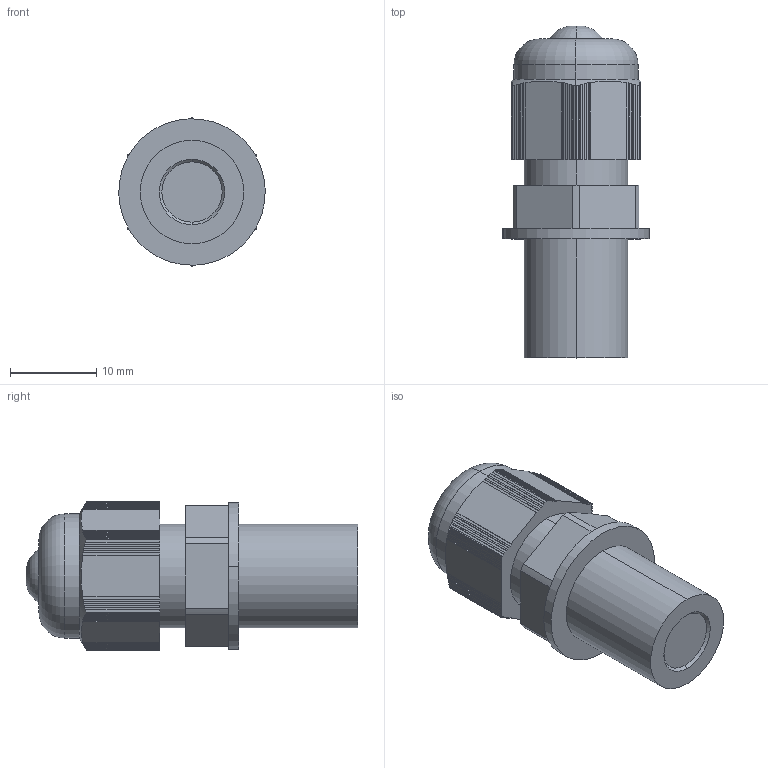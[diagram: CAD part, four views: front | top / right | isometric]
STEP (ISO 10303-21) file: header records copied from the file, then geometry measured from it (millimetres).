
FILE_DESCRIPTION (( 'STEP AP203' ), '1' );
FILE_NAME ('ﾊﾍﾅﾏ02ﾌ.STEP', '2021-10-28T11:59:56', ( '' ), ( '' ), 'SwSTEP 2.0', 'SolidWorks 2018', '' );
FILE_SCHEMA (( 'CONFIG_CONTROL_DESIGN' ));
Length unit declared in the file: millimetre
Products named in the file (1): ﾊﾍﾅﾏ02ﾌ
Bounding box: 16.99 x 38.5 x 17.3 mm (x, y, z)
Volume: 5584.8 mm3; surface area: 2281.1 mm2
Topology: 1 solids, 1 shells, 351 faces, 1004 edges, 668 vertices
Faces by surface type: plane 259, bspline 63, cylinder 21, cone 4, torus 4
Entity records: 13501 total; most frequent: CARTESIAN_POINT 5021, ORIENTED_EDGE 2008, DIRECTION 1316, EDGE_CURVE 1004, VERTEX_POINT 668, VECTOR 622, LINE 622, EDGE_LOOP 364
